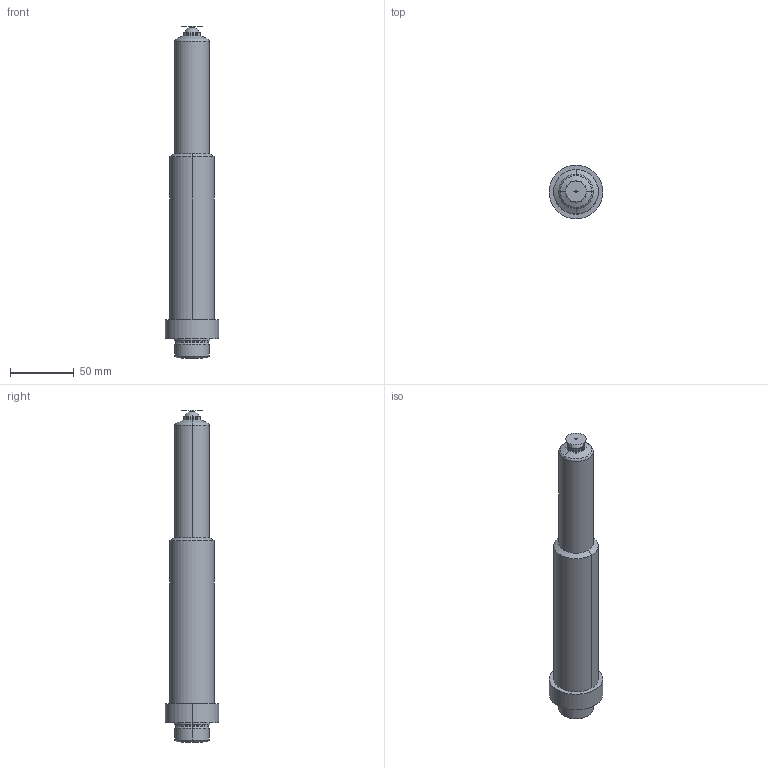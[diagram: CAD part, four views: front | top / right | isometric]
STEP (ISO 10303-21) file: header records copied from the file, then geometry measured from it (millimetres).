
FILE_DESCRIPTION (( 'STEP AP214' ), '1' );
FILE_NAME ('09EX12-03-245-TTW-C.step', '2023-04-19T08:36:28', ( '' ), ( '' ), 'SwSTEP 2.0', 'SolidWorks 2018', '' );
FILE_SCHEMA (( 'AUTOMOTIVE_DESIGN' ));
Length unit declared in the file: millimetre
Products named in the file (1): 09EX12-03-245-TTW-C
Bounding box: 42 x 42 x 260 mm (x, y, z)
Surface area: 90803.2 mm2 (no closed solid volume)
Topology: 0 solids, 5 shells, 511 faces, 1307 edges, 811 vertices
Faces by surface type: cylinder 209, plane 159, torus 73, cone 54, sphere 10, bspline 6
Entity records: 25187 total; most frequent: CARTESIAN_POINT 6914, DIRECTION 2787, ORIENTED_EDGE 2604, EDGE_CURVE 1303, AXIS2_PLACEMENT_3D 1106, VERTEX_POINT 809, CIRCLE 600, VECTOR 575
